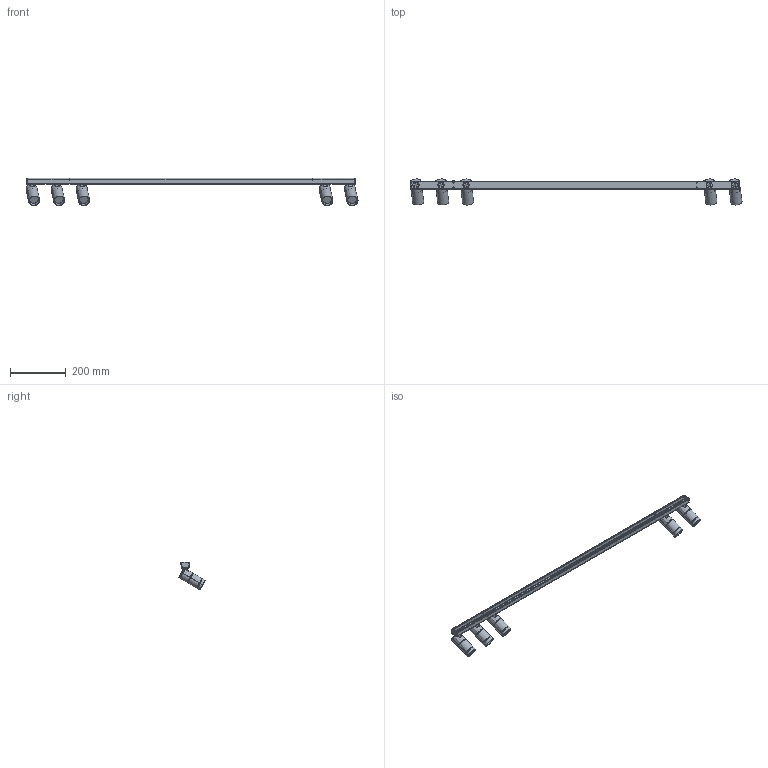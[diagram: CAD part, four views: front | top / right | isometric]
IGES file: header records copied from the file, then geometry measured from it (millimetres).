
Start section: SolidWorks IGES file using analytic representation for surfaces
Global section: file name: Y:\PRODUKT\Modele_3D_WWW\_KOLEKCJE_WWW\FOURTY 2024\FOURTY-V\FOURTY V pm.IGS; native system: SolidWorks 2023; preprocessor: SolidWorks 2023; author: anna.bielnik; date: 241010.084611; units: millimetre
Bounding box: 1193.36 x 93.53 x 98.09 mm (x, y, z)
Surface area: 309486 mm2 (no closed solid volume)
Topology: 0 solids, 0 shells, 591 faces, 9091 edges, 9076 vertices
Faces by surface type: bspline 302, revolution 289
